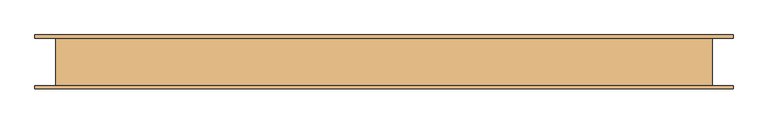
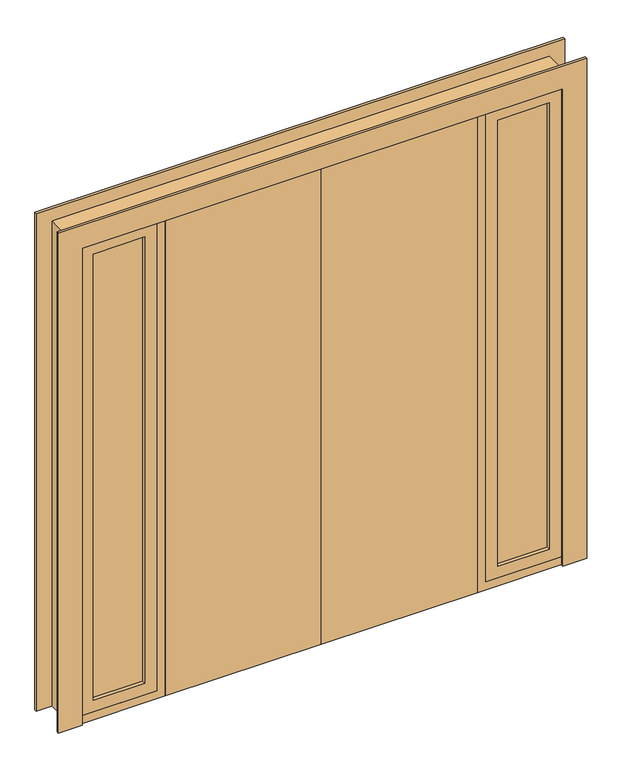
"""IFC4 building model written with IfcOpenShell, lengths in millimetres: door geometry, PORTA DE ABRIR - 2 FOLHAS + LUZES LATERAIS - 2 FOLHAS : (31,5) 130 (31,5) X 210."""

from ifc_helpers import new_model, si_unit, frame, origin, origin_with_axes, place, context, project, spatial, polyline, outline, extrude, faceted_brep, source, transform, mapped, element, save


def door_8916e6e4(model_context):
    return source(origin(), model_context, "Body", "SolidModel", [
        extrude(outline(polyline([(25.0, -75.0), (25.0, -35.0), (675.0, -35.0), (675.0, -75.0), (25.0, -75.0)])), origin_with_axes(), (0.0, 0.0, 1.0), 2100.0),
        extrude(outline(polyline([(975.0, -52.0), (975.0, -58.0), (760.0, -58.0), (760.0, -52.0), (975.0, -52.0)])), frame((0.0, 0.0, 85.0), z_axis=(0.0, 0.0, 1.0), x_axis=(1.0, 0.0, 0.0)), (0.0, 0.0, 1.0), 1965.0),
        extrude(outline(polyline([(2100.0, 1025.0), (2100.0, 710.0), (35.0, 710.0), (35.0, 1025.0), (2100.0, 1025.0)]), holes=[polyline([(2050.0, 975.0), (85.0, 975.0), (85.0, 760.0), (2050.0, 760.0), (2050.0, 975.0)])]), frame((0.0, -75.0, 0.0), z_axis=(0.0, 1.0, 0.0), x_axis=(0.0, 0.0, 1.0)), (0.0, 0.0, 1.0), 40.0),
        extrude(outline(polyline([(-710.0, -52.0), (-710.0, -58.0), (-925.0, -58.0), (-925.0, -52.0), (-710.0, -52.0)])), frame((0.0, 0.0, 85.0), z_axis=(0.0, 0.0, 1.0), x_axis=(1.0, 0.0, 0.0)), (0.0, 0.0, 1.0), 1965.0),
        extrude(outline(polyline([(2100.0, -660.0), (2100.0, -975.0), (35.0, -975.0), (35.0, -660.0), (2100.0, -660.0)]), holes=[polyline([(2050.0, -710.0), (85.0, -710.0), (85.0, -925.0), (2050.0, -925.0), (2050.0, -710.0)])]), frame((0.0, -75.0, 0.0), z_axis=(0.0, 1.0, 0.0), x_axis=(0.0, 0.0, 1.0)), (0.0, 0.0, 1.0), 40.0),
        extrude(outline(polyline([(25.0, -75.0), (-625.0, -75.0), (-625.0, -35.0), (25.0, -35.0), (25.0, -75.0)])), origin_with_axes(), (0.0, 0.0, 1.0), 2100.0),
        extrude(outline(polyline([(2090.0, 1025.0), (0.0, 1025.0), (0.0, 1125.0), (2190.0, 1125.0), (2190.0, -1075.0), (0.0, -1075.0), (0.0, -975.0), (2090.0, -975.0), (2090.0, 1025.0)])), frame((0.0, 75.0, 0.0), z_axis=(0.0, 1.0, 0.0), x_axis=(0.0, 0.0, 1.0)), (0.0, 0.0, 1.0), 10.0),
        extrude(outline(polyline([(2100.0, -975.0), (2100.0, 1025.0), (0.0, 1025.0), (0.0, 1125.0), (2200.0, 1125.0), (2200.0, -1075.0), (0.0, -1075.0), (0.0, -975.0), (2100.0, -975.0)])), frame((0.0, -85.0, 0.0), z_axis=(0.0, 1.0, 0.0), x_axis=(0.0, 0.0, 1.0)), (0.0, 0.0, 1.0), 10.0),
        faceted_brep([(675.0, -75.0, 0.0), (675.0, -35.0, 0.0), (665.0, -35.0, 0.0), (665.0, 75.0, 0.0), (1060.0, 75.0, 0.0), (1060.0, -75.0, 0.0), (675.0, -75.0, 2100.0), (675.0, -35.0, 2100.0), (-625.0, -35.0, 2100.0), (-625.0, -35.0, 0.0), (-615.0, -35.0, 0.0), (-615.0, -35.0, 2090.0), (665.0, -35.0, 2090.0), (665.0, 75.0, 2090.0), (-615.0, 75.0, 2090.0), (-615.0, 75.0, 0.0), (-1010.0, 75.0, 0.0), (-1010.0, 75.0, 2135.0), (1060.0, 75.0, 2135.0), (710.0, 75.0, 2100.0), (710.0, 75.0, 35.0), (1025.0, 75.0, 35.0), (1025.0, 75.0, 2100.0), (-660.0, 75.0, 35.0), (-660.0, 75.0, 2100.0), (-975.0, 75.0, 2100.0), (-975.0, 75.0, 35.0), (1060.0, -75.0, 2135.0), (-1010.0, -75.0, 2135.0), (-1010.0, -75.0, 0.0), (-625.0, -75.0, 0.0), (-625.0, -75.0, 2100.0), (-660.0, -75.0, 2100.0), (-660.0, -75.0, 35.0), (-975.0, -75.0, 35.0), (-975.0, -75.0, 2100.0), (710.0, -75.0, 35.0), (710.0, -75.0, 2100.0), (1025.0, -75.0, 2100.0), (1025.0, -75.0, 35.0)], [[[0, 1, 2, 3, 4, 5]], [[1, 0, 6, 7]], [[2, 1, 7, 8, 9, 10, 11, 12]], [[3, 2, 12, 13]], [[4, 3, 13, 14, 15, 16, 17, 18], [19, 20, 21, 22], [23, 24, 25, 26]], [[4, 18, 27, 5]], [[0, 5, 27, 28, 29, 30, 31, 6], [32, 33, 34, 35], [36, 37, 38, 39]], [[20, 19, 37, 36]], [[21, 20, 36, 39]], [[33, 32, 24, 23]], [[23, 26, 34, 33]], [[26, 25, 35, 34]], [[22, 21, 39, 38]], [[17, 16, 29, 28]], [[30, 29, 16, 15, 10, 9]], [[31, 30, 9, 8]], [[11, 10, 15, 14]], [[28, 27, 18, 17]], [[6, 31, 8, 7]], [[12, 11, 14, 13]], [[35, 25, 24, 32]], [[22, 38, 37, 19]]]),
    ])


if __name__ == "__main__":
    model = new_model("IFC4")
    model_context = context("Model", 3, world=origin())
    ifc_project = project(units=[si_unit("LENGTHUNIT", "METRE", prefix="MILLI")], contexts=[model_context])
    site = spatial("IfcSite", under=ifc_project)
    building = spatial("IfcBuilding", under=site)
    placement = place(None, origin())
    door_shape = door_8916e6e4(model_context)
    element("IfcDoor", 1, ObjectType="PORTA DE ABRIR - 2 FOLHAS + LUZES LATERAIS - 2 FOLHAS : (31,5) 130 (31,5) X 210", at=placement, inside=building, context=model_context, shape_type="MappedRepresentation", body=[
        mapped(door_shape, transform((0.0, 0.0, 0.0), x_axis=(1.0, 0.0, 0.0), y_axis=(0.0, 1.0, 0.0), z_axis=(0.0, 0.0, 1.0))),
    ])
    save(model, "model.ifc")
